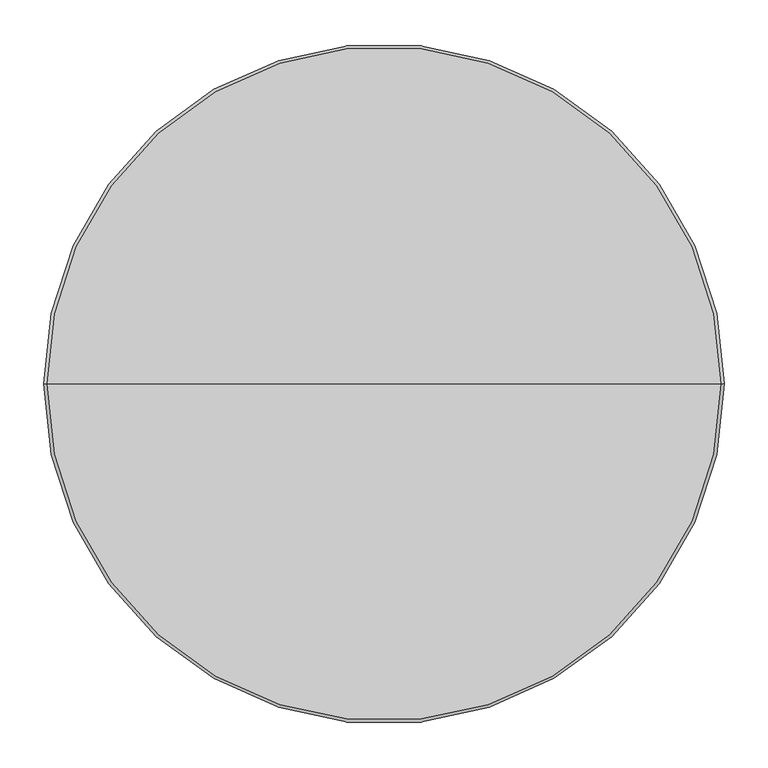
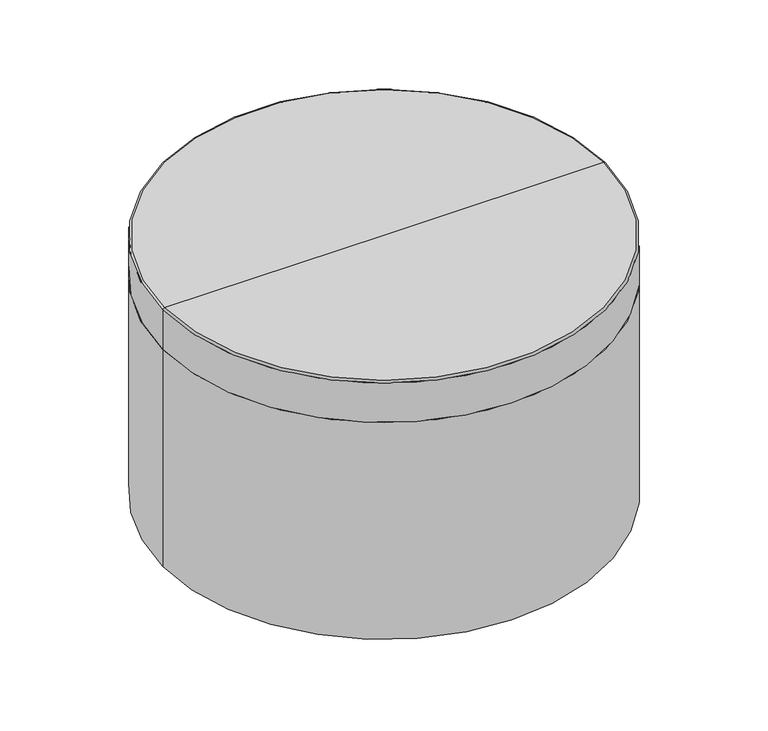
"""IFC4 building model written with IfcOpenShell, lengths in millimetres: furniture geometry, StanceHC-Drum_Table : 3-DRT30D20-U."""

import ifcopenshell
import ifcopenshell.guid

model = None  # the IFC model being written
_history = None  # IfcOwnerHistory: only IFC2X3 demands one
_inside = {}  # id of a spatial element -> (the spatial element, [elements in it])
_under = {}  # id of a project, library or spatial element -> (it, [spatial elements below it])
_declared = {}  # id of a project -> (the project, [libraries it declares])
_typed = {}  # id of a type object -> (the type object, [elements of that type])
_made_of = {}  # id of a material, layer set ... -> (it, [elements and type objects made of it])


def new_model(schema):
    """Start an empty IFC model of exactly this schema.

    Asked for "IFC4X3", IfcOpenShell would pick the latest addendum, in which some entities
    have other attributes; the version numbers below select the first issue.
    IFC2X3 requires an IfcOwnerHistory on every rooted entity: one is made here for all.
    """
    global model, _history
    if schema == "IFC4X3":
        model = ifcopenshell.file(schema_version=(4, 3, 0, 0))
    else:
        model = ifcopenshell.file(schema=schema)
    _inside.clear()
    _under.clear()
    _declared.clear()
    _typed.clear()
    _made_of.clear()
    _history = None
    if model.schema == "IFC2X3":
        org = make("IfcOrganization", Name="unknown")
        user = make(
            "IfcPersonAndOrganization",
            ThePerson=make("IfcPerson", FamilyName="unknown"),
            TheOrganization=org,
        )
        app = make(
            "IfcApplication",
            ApplicationDeveloper=org,
            Version="unknown",
            ApplicationFullName="unknown",
            ApplicationIdentifier="unknown",
        )
        _history = make(
            "IfcOwnerHistory",
            OwningUser=user,
            OwningApplication=app,
            ChangeAction="ADDED",
            CreationDate=0,
        )
    return model


def make(cls, **values):
    """One entity of the class cls with the attributes given. An attribute that is None is left unset."""
    return model.create_entity(
        cls, **{name: value for name, value in values.items() if value is not None}
    )


def rooted(cls, **values):
    """An entity with a GlobalId (a new one), such as an element, a storey or a relation."""
    return make(cls, GlobalId=ifcopenshell.guid.new(), OwnerHistory=_history, **values)


def si_unit(unit_type, name, prefix=None):
    """IfcSIUnit, for example si_unit("LENGTHUNIT", "METRE", prefix="MILLI")."""
    return make("IfcSIUnit", UnitType=unit_type, Prefix=prefix, Name=name)


def assignment(units):
    """IfcUnitAssignment: the units of a project."""
    return None if units is None else make("IfcUnitAssignment", Units=units)


def point(xyz):
    """IfcCartesianPoint."""
    return None if xyz is None else make("IfcCartesianPoint", Coordinates=xyz)


def direction(xyz):
    """IfcDirection."""
    return None if xyz is None else make("IfcDirection", DirectionRatios=xyz)


def frame(location, z_axis=None, x_axis=None):
    """IfcAxis2Placement3D, a coordinate frame: its origin and axes. An axis left out is left unset."""
    return make(
        "IfcAxis2Placement3D",
        Location=point(location),
        Axis=direction(z_axis),
        RefDirection=direction(x_axis),
    )


def frame_2d(location, x_axis=None):
    """IfcAxis2Placement2D, a coordinate frame in the plane: its origin and x axis."""
    return make(
        "IfcAxis2Placement2D", Location=point(location), RefDirection=direction(x_axis)
    )


def origin():
    """The frame at (0, 0, 0) with its axes left unset."""
    return frame((0.0, 0.0, 0.0))


def origin_with_axes():
    """The frame at (0, 0, 0) with the z axis (0, 0, 1) and the x axis (1, 0, 0) written out."""
    return frame((0.0, 0.0, 0.0), z_axis=(0.0, 0.0, 1.0), x_axis=(1.0, 0.0, 0.0))


def place(relative_to, where):
    """IfcLocalPlacement: puts the frame where relative to a parent placement (None: the world)."""
    return make(
        "IfcLocalPlacement", PlacementRelTo=relative_to, RelativePlacement=where
    )


def context(
    kind, dimensions, precision=None, world=None, true_north=None, identifier=None
):
    """IfcGeometricRepresentationContext, for example the 3D "Model" context."""
    return make(
        "IfcGeometricRepresentationContext",
        ContextIdentifier=identifier,
        ContextType=kind,
        CoordinateSpaceDimension=dimensions,
        Precision=precision,
        WorldCoordinateSystem=world,
        TrueNorth=true_north,
    )


def project(units=None, contexts=None):
    """IfcProject with its units and contexts."""
    return rooted(
        "IfcProject",
        Name="project",
        RepresentationContexts=contexts,
        UnitsInContext=assignment(units),
    )


def spatial(cls, under=None, at=None, **own):
    """A site, building, storey or space (cls), placed at a placement, below another one or the project."""
    s = rooted(cls, ObjectPlacement=at, **own)
    if under is not None:
        _under.setdefault(under.id(), (under, []))[1].append(s)
    return s


def circle_curve(where, radius):
    """IfcCircle in the frame where."""
    return make("IfcCircle", Position=where, Radius=radius)


def ellipse_curve(where, semi_axis1, semi_axis2):
    """IfcEllipse in the frame where."""
    return make(
        "IfcEllipse", Position=where, SemiAxis1=semi_axis1, SemiAxis2=semi_axis2
    )


def trimmed(basis, trim1, trim2, sense, master):
    """IfcTrimmedCurve: the piece of a basis curve between two trims."""
    return make(
        "IfcTrimmedCurve",
        BasisCurve=basis,
        Trim1=trim1,
        Trim2=trim2,
        SenseAgreement=sense,
        MasterRepresentation=master,
    )


def segment(curve, same_sense, transition):
    """IfcCompositeCurveSegment."""
    return make(
        "IfcCompositeCurveSegment",
        Transition=transition,
        SameSense=same_sense,
        ParentCurve=curve,
    )


def composite_curve(segments, self_intersect=None):
    """IfcCompositeCurve: segments joined end to end."""
    return make("IfcCompositeCurve", Segments=segments, SelfIntersect=self_intersect)


def outline(outer, holes=None, kind="AREA"):
    """IfcArbitraryClosedProfileDef: a profile drawn as a closed curve; with holes, ...WithVoids."""
    if holes is None:
        return make("IfcArbitraryClosedProfileDef", ProfileType=kind, OuterCurve=outer)
    return make(
        "IfcArbitraryProfileDefWithVoids",
        ProfileType=kind,
        OuterCurve=outer,
        InnerCurves=holes,
    )


def extrude(swept, where, along, depth):
    """IfcExtrudedAreaSolid: the profile swept, set in the frame where, extruded along a direction by depth."""
    return make(
        "IfcExtrudedAreaSolid",
        SweptArea=swept,
        Position=where,
        ExtrudedDirection=direction(along),
        Depth=depth,
    )


def shape(context_of_items, identifier, shape_type, items):
    """IfcShapeRepresentation: the items that make up one representation, for example the "Body"."""
    return make(
        "IfcShapeRepresentation",
        ContextOfItems=context_of_items,
        RepresentationIdentifier=identifier,
        RepresentationType=shape_type,
        Items=items,
    )


def source(mapping_origin, context_of_items, identifier, shape_type, items):
    """IfcRepresentationMap: a shape defined once, which mapped items show again and again."""
    return make(
        "IfcRepresentationMap",
        MappingOrigin=mapping_origin,
        MappedRepresentation=shape(context_of_items, identifier, shape_type, items),
    )


def transform(
    local_origin,
    x_axis=None,
    y_axis=None,
    z_axis=None,
    scale=None,
    scale2=None,
    scale3=None,
    uniform=True,
):
    """IfcCartesianTransformationOperator3D, or its non-uniform kind. x_axis, y_axis, z_axis: its Axis1, 2, 3."""
    if uniform:
        return make(
            "IfcCartesianTransformationOperator3D",
            Axis1=direction(x_axis),
            Axis2=direction(y_axis),
            LocalOrigin=point(local_origin),
            Scale=scale,
            Axis3=direction(z_axis),
        )
    return make(
        "IfcCartesianTransformationOperator3DnonUniform",
        Axis1=direction(x_axis),
        Axis2=direction(y_axis),
        LocalOrigin=point(local_origin),
        Scale=scale,
        Axis3=direction(z_axis),
        Scale2=scale2,
        Scale3=scale3,
    )


def mapped(mapping_source, mapping_target):
    """IfcMappedItem: shows the shape of a source again, moved by a transform."""
    return make(
        "IfcMappedItem", MappingSource=mapping_source, MappingTarget=mapping_target
    )


def made_of(thing, what):
    """Note that an element or type object is made of a material, layer set ...; save() writes the relation."""
    if what is not None:
        _made_of.setdefault(what.id(), (what, []))[1].append(thing)
    return thing


def element(
    cls,
    number,
    at=None,
    inside=None,
    cuts=None,
    type_object=None,
    material=None,
    context=None,
    identifier="Body",
    shape_type=None,
    held_by="IfcProductDefinitionShape",
    body=None,
    shapes=None,
    **own,
):
    """One element of the class cls, such as IfcWall. Its Tag is "e" and its number.

    at: its placement. inside: the storey or other place that contains it. cuts: it is an
    opening in that element (IfcRelVoidsElement). A single representation is given by context,
    identifier, shape_type and body (its items); several are given by shapes. held_by: the class
    of the entity that holds the representations. save() writes the other relations.
    """
    e = rooted(cls, Tag="e%d" % number, ObjectPlacement=at, **own)
    if body is not None:
        shapes = [shape(context, identifier, shape_type, body)]
    if shapes is not None:
        e.Representation = make(held_by, Representations=shapes)
    if inside is not None:
        _inside.setdefault(inside.id(), (inside, []))[1].append(e)
    if cuts is not None:
        rooted(
            "IfcRelVoidsElement", RelatingBuildingElement=cuts, RelatedOpeningElement=e
        )
    if type_object is not None:
        _typed.setdefault(type_object.id(), (type_object, []))[1].append(e)
    return made_of(e, material)


def aggregate(whole, parts):
    """IfcRelAggregates: a whole, such as a stair, and the parts it consists of."""
    return rooted("IfcRelAggregates", RelatingObject=whole, RelatedObjects=parts)


def save(model, path):
    """Write the relations noted so far, then the file.

    IfcRelAggregates (storeys below a building ...), IfcRelContainedInSpatialStructure (elements
    in a storey), IfcRelDefinesByType, IfcRelAssociatesMaterial and IfcRelDeclares: one each for
    every whole, place, type object, material and project.
    """
    for whole, parts in _under.values():
        aggregate(whole, parts)
    for where, things in _inside.values():
        rooted(
            "IfcRelContainedInSpatialStructure",
            RelatedElements=things,
            RelatingStructure=where,
        )
    for kind, things in _typed.values():
        rooted("IfcRelDefinesByType", RelatedObjects=things, RelatingType=kind)
    for what, things in _made_of.values():
        rooted("IfcRelAssociatesMaterial", RelatedObjects=things, RelatingMaterial=what)
    for by, libraries in _declared.values():
        rooted("IfcRelDeclares", RelatingContext=by, RelatedDefinitions=libraries)
    model.write(path)


def plane_surface(at):
    """IfcPlane: the flat surface through the origin of the frame at, square to its z axis."""
    return make("IfcPlane", Position=at)


def cylinder_surface(at, radius):
    """IfcCylindricalSurface: all points at the distance radius from the z axis of the frame at."""
    return make("IfcCylindricalSurface", Position=at, Radius=radius)


def revolved_surface(curve, axis_point, axis_direction):
    """IfcSurfaceOfRevolution: the curve turned about the line through axis_point along axis_direction."""
    return make(
        "IfcSurfaceOfRevolution",
        SweptCurve=make("IfcArbitraryOpenProfileDef", ProfileType="CURVE", Curve=curve),
        AxisPosition=make("IfcAxis1Placement", Location=point(axis_point), Axis=direction(axis_direction)),
    )


def advanced_brep(points, edges, surfaces, faces):
    """IfcAdvancedBrep: a solid bounded by faces that lie on surfaces and meet in shared edges.

    An edge is (start, end): straight between two places in points (the first is 0);
    or (start, end, curve); or (start, end, curve, False) where it runs against its curve.
    A face is (place in surfaces, loops), or (place, loops, False) where it looks against
    its surface's normal. A loop lists edges by number (the first is 1), with a minus sign
    where the edge is run from its end to its start. The first loop is the outer one.
    """
    corners = [point(p) for p in points]
    vertices = [make("IfcVertexPoint", VertexGeometry=c) for c in corners]
    made = []
    for start, end, *more in edges:
        made.append(
            make(
                "IfcEdgeCurve",
                EdgeStart=vertices[start],
                EdgeEnd=vertices[end],
                EdgeGeometry=more[0] if more else make("IfcPolyline", Points=[corners[start], corners[end]]),
                SameSense=more[1] if len(more) > 1 else True,
            )
        )
    hull = []
    for where, loops, *sense in faces:
        bounds = []
        for j, loop in enumerate(loops):
            ring = [make("IfcOrientedEdge", EdgeElement=made[abs(k) - 1], Orientation=k > 0) for k in loop]
            bounds.append(
                make(
                    "IfcFaceOuterBound" if j == 0 else "IfcFaceBound",
                    Bound=make("IfcEdgeLoop", EdgeList=ring),
                    Orientation=True,
                )
            )
        hull.append(make("IfcAdvancedFace", Bounds=bounds, FaceSurface=surfaces[where], SameSense=sense[0] if sense else True))
    return make("IfcAdvancedBrep", Outer=make("IfcClosedShell", CfsFaces=hull))


def furniture_2e1be484(model_context):
    return source(origin(), model_context, "Body", "SolidModel", [
        extrude(outline(composite_curve([segment(trimmed(circle_curve(frame_2d((0.0, 326.3164845)), 12.7), [point((-12.7, 326.3164845))], [point((12.7, 326.3164845))], False, "CARTESIAN"), True, "CONTINUOUS"), segment(trimmed(circle_curve(frame_2d((0.0, 326.3164845)), 12.7), [point((12.7, 326.3164845))], [point((-12.7, 326.3164845))], False, "CARTESIAN"), True, "CONTINUOUS")], self_intersect=False)), origin_with_axes(), (0.0, 0.0, 1.0), 4.7625),
        extrude(outline(composite_curve([segment(trimmed(circle_curve(frame_2d((0.0, -326.3164845)), 12.7), [point((-12.7, -326.3164845))], [point((12.7, -326.3164845))], False, "CARTESIAN"), True, "CONTINUOUS"), segment(trimmed(circle_curve(frame_2d((0.0, -326.3164845)), 12.7), [point((12.7, -326.3164845))], [point((-12.7, -326.3164845))], False, "CARTESIAN"), True, "CONTINUOUS")], self_intersect=False)), origin_with_axes(), (0.0, 0.0, 1.0), 4.7625),
        extrude(outline(composite_curve([segment(trimmed(circle_curve(frame_2d((330.1996404, 0.0)), 12.7), [point((317.4996404, 0.0))], [point((342.8996404, 0.0))], False, "CARTESIAN"), True, "CONTINUOUS"), segment(trimmed(circle_curve(frame_2d((330.1996404, 0.0)), 12.7), [point((342.8996404, 0.0))], [point((317.4996404, 0.0))], False, "CARTESIAN"), True, "CONTINUOUS")], self_intersect=False)), origin_with_axes(), (0.0, 0.0, 1.0), 4.7625),
        extrude(outline(composite_curve([segment(trimmed(circle_curve(frame_2d((-330.1996404, 0.0)), 12.7), [point((-342.8996404, 0.0))], [point((-317.4996404, 0.0))], False, "CARTESIAN"), True, "CONTINUOUS"), segment(trimmed(circle_curve(frame_2d((-330.1996404, 0.0)), 12.7), [point((-317.4996404, 0.0))], [point((-342.8996404, 0.0))], False, "CARTESIAN"), True, "CONTINUOUS")], self_intersect=False)), origin_with_axes(), (0.0, 0.0, 1.0), 4.7625),
        advanced_brep(
        [(0.0, 0.0, 406.4), (387.35, 0.0, 406.4), (-387.35, 0.0, 406.4), (-387.35, 0.0, 4.7625), (387.35, 0.0, 4.7625), (0.0, 0.0, 4.7625)],
        [
            (0, 1),
            (1, 2, circle_curve(frame((0.0, 0.0, 406.4), z_axis=(0.0, 0.0, 1.0), x_axis=(1.0, 0.0, 0.0)), 387.35)),
            (2, 0),
            (2, 1, circle_curve(frame((0.0, 0.0, 406.4), z_axis=(0.0, 0.0, 1.0), x_axis=(1.0, 0.0, 0.0)), 387.35)),
            (3, 4, circle_curve(frame((0.0, 0.0, 4.7625), z_axis=(0.0, 0.0, -1.0), x_axis=(1.0, 0.0, 0.0)), 387.35)),
            (4, 5),
            (5, 3),
            (4, 3, circle_curve(frame((0.0, 0.0, 4.7625), z_axis=(0.0, 0.0, -1.0), x_axis=(1.0, 0.0, 0.0)), 387.35)),
            (1, 4),
            (3, 2),
        ],
        [
            plane_surface(frame((0.0, 0.0, 406.4), z_axis=(0.0, 0.0, 1.0), x_axis=(1.0, 0.0, 0.0))),
            plane_surface(frame((0.0, 0.0, 4.7625), z_axis=(0.0, 0.0, -1.0), x_axis=(1.0, 0.0, 0.0))),
            cylinder_surface(frame((0.0, 0.0, 558.8), z_axis=(0.0, 0.0, 1.0), x_axis=(1.0, 0.0, 0.0)), 387.35),
        ],
        [
            (0, [[1, 2, 3]]),
            (0, [[-3, 4, -1]]),
            (1, [[5, 6, 7]]),
            (1, [[8, -7, -6]]),
            (2, [[-2, 9, -5, 10]]),
            (2, [[-4, -10, -8, -9]]),
        ],
    ),
        advanced_brep(
        [(-387.35, 0.0, 406.4), (387.35, 0.0, 406.4), (0.0, 0.0, 406.4), (-387.35, 0.0, 479.4764933), (387.35, 0.0, 479.4764933), (-384.2264933, 0.0, 482.6), (384.2264933, 0.0, 482.6), (0.0, 0.0, 482.6)],
        [
            (0, 1, circle_curve(frame((0.0, 0.0, 406.4), z_axis=(0.0, 0.0, -1.0), x_axis=(1.0, 0.0, 0.0)), 387.35)),
            (1, 2),
            (2, 0),
            (1, 0, circle_curve(frame((0.0, 0.0, 406.4), z_axis=(0.0, 0.0, -1.0), x_axis=(1.0, 0.0, 0.0)), 387.35)),
            (3, 4, circle_curve(frame((0.0, 0.0, 479.4764933), z_axis=(0.0, 0.0, -1.0), x_axis=(1.0, 0.0, 0.0)), 387.35)),
            (4, 1),
            (0, 3),
            (4, 3, circle_curve(frame((0.0, 0.0, 479.4764933), z_axis=(0.0, 0.0, -1.0), x_axis=(1.0, 0.0, 0.0)), 387.35)),
            (5, 6, circle_curve(frame((0.0, 0.0, 482.6), z_axis=(0.0, 0.0, -1.0), x_axis=(1.0, 0.0, 0.0)), 384.2264933)),
            (6, 4, circle_curve(frame((384.2264933, 0.0, 479.4764933), z_axis=(0.0, 1.0, 0.0), x_axis=(1.0, 0.0, 0.0)), 3.1235067)),
            (3, 5, circle_curve(frame((-384.2264933, 0.0, 479.4764933), z_axis=(0.0, 1.0, 0.0), x_axis=(-1.0, 0.0, 0.0)), 3.1235067)),
            (6, 5, circle_curve(frame((0.0, 0.0, 482.6), z_axis=(0.0, 0.0, -1.0), x_axis=(1.0, 0.0, 0.0)), 384.2264933)),
            (7, 6),
            (5, 7),
        ],
        [
            plane_surface(frame((0.0, 0.0, 406.4), z_axis=(0.0, 0.0, -1.0), x_axis=(1.0, 0.0, 0.0))),
            cylinder_surface(frame((0.0, 0.0, 577.85), z_axis=(0.0, 0.0, 1.0), x_axis=(1.0, 0.0, 0.0)), 387.35),
            revolved_surface(trimmed(ellipse_curve(frame((384.2264933, 0.0, 479.4764933), z_axis=(0.0, -1.0, 0.0), x_axis=(1.0, 0.0, 0.0)), 3.1235067, 3.1235067), [point((387.35, 0.0, 479.4764933))], [point((384.2264933, 0.0, 482.6))], True, "CARTESIAN"), (0.0, 0.0, 577.85), (0.0, 0.0, 1.0)),
            plane_surface(frame((0.0, 0.0, 482.6), z_axis=(0.0, 0.0, 1.0), x_axis=(1.0, 0.0, 0.0))),
        ],
        [
            (0, [[1, 2, 3]]),
            (0, [[4, -3, -2]]),
            (1, [[5, 6, -1, 7]]),
            (1, [[8, -7, -4, -6]]),
            (2, [[9, 10, -5, 11]]),
            (2, [[12, -11, -8, -10]]),
            (3, [[13, -9, 14]]),
            (3, [[-14, -12, -13]]),
        ],
    ),
    ])


if __name__ == "__main__":
    model = new_model("IFC4")
    model_context = context("Model", 3, world=origin())
    ifc_project = project(units=[si_unit("LENGTHUNIT", "METRE", prefix="MILLI")], contexts=[model_context])
    site = spatial("IfcSite", under=ifc_project)
    building = spatial("IfcBuilding", under=site)
    placement = place(None, origin())
    furniture_shape = furniture_2e1be484(model_context)
    element("IfcFurniture", 1, ObjectType="StanceHC-Drum_Table : 3-DRT30D20-U", at=placement, inside=building, context=model_context, shape_type="MappedRepresentation", body=[
        mapped(furniture_shape, transform((0.0, 0.0, 0.0), x_axis=(1.0, 0.0, 0.0), y_axis=(0.0, 1.0, 0.0), z_axis=(0.0, 0.0, 1.0))),
    ])
    save(model, "model.ifc")
